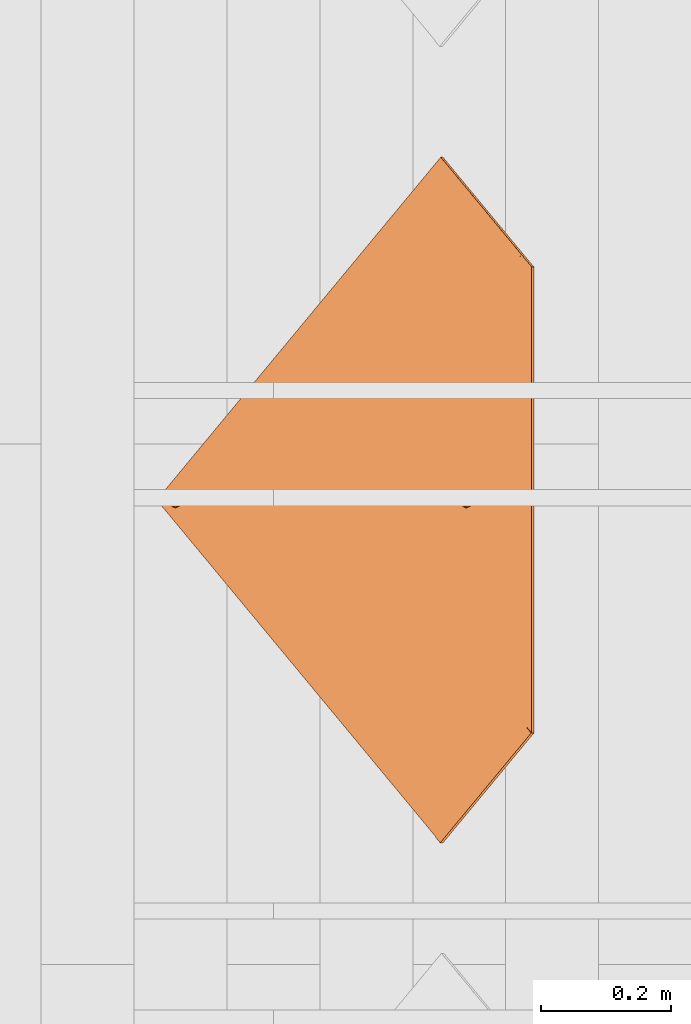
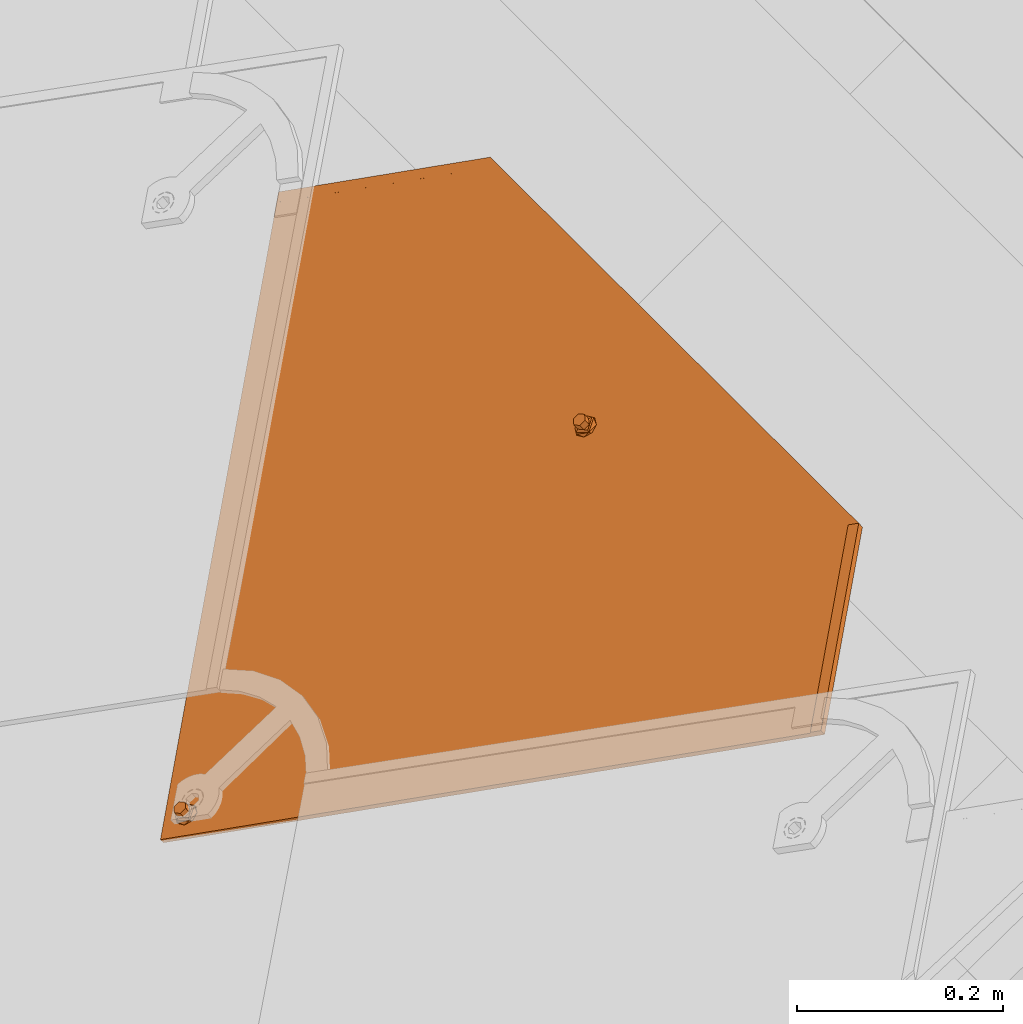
# One storey, part 58 of 151: 1 proxy.
"""IFC2X3 building model written with IfcOpenShell, lengths in millimetres."""

import ifcopenshell
import ifcopenshell.guid

model = None  # the IFC model being written
_history = None  # IfcOwnerHistory: only IFC2X3 demands one
_inside = {}  # id of a spatial element -> (the spatial element, [elements in it])
_under = {}  # id of a project, library or spatial element -> (it, [spatial elements below it])
_declared = {}  # id of a project -> (the project, [libraries it declares])
_typed = {}  # id of a type object -> (the type object, [elements of that type])
_made_of = {}  # id of a material, layer set ... -> (it, [elements and type objects made of it])


def new_model(schema):
    """Start an empty IFC model of exactly this schema.

    Asked for "IFC4X3", IfcOpenShell would pick the latest addendum, in which some entities
    have other attributes; the version numbers below select the first issue.
    IFC2X3 requires an IfcOwnerHistory on every rooted entity: one is made here for all.
    """
    global model, _history
    if schema == "IFC4X3":
        model = ifcopenshell.file(schema_version=(4, 3, 0, 0))
    else:
        model = ifcopenshell.file(schema=schema)
    _inside.clear()
    _under.clear()
    _declared.clear()
    _typed.clear()
    _made_of.clear()
    _history = None
    if model.schema == "IFC2X3":
        org = make("IfcOrganization", Name="unknown")
        user = make(
            "IfcPersonAndOrganization",
            ThePerson=make("IfcPerson", FamilyName="unknown"),
            TheOrganization=org,
        )
        app = make(
            "IfcApplication",
            ApplicationDeveloper=org,
            Version="unknown",
            ApplicationFullName="unknown",
            ApplicationIdentifier="unknown",
        )
        _history = make(
            "IfcOwnerHistory",
            OwningUser=user,
            OwningApplication=app,
            ChangeAction="ADDED",
            CreationDate=0,
        )
    return model


def make(cls, **values):
    """One entity of the class cls with the attributes given. An attribute that is None is left unset."""
    return model.create_entity(
        cls, **{name: value for name, value in values.items() if value is not None}
    )


def entity(cls, *values):
    """Any entity or typed value of the class cls, its attributes in the order of the schema. None: left unset."""
    e = model.create_entity(cls)
    for i, value in enumerate(values):
        if value is not None:
            e[i] = value
    return e


def rooted(cls, **values):
    """An entity with a GlobalId (a new one), such as an element, a storey or a relation."""
    return make(cls, GlobalId=ifcopenshell.guid.new(), OwnerHistory=_history, **values)


def si_unit(unit_type, name, prefix=None):
    """IfcSIUnit, for example si_unit("LENGTHUNIT", "METRE", prefix="MILLI")."""
    return make("IfcSIUnit", UnitType=unit_type, Prefix=prefix, Name=name)


def converted_unit(unit_type, name, factor, base, dimensions=None, offset=None):
    """IfcConversionBasedUnit, such as the inch: factor (a typed value) times the base unit."""
    return make(
        "IfcConversionBasedUnit"
        if offset is None
        else "IfcConversionBasedUnitWithOffset",
        ConversionOffset=offset,
        Dimensions=None
        if dimensions is None
        else entity("IfcDimensionalExponents", *dimensions),
        UnitType=unit_type,
        Name=name,
        ConversionFactor=make(
            "IfcMeasureWithUnit", ValueComponent=factor, UnitComponent=base
        ),
    )


def derived_unit(unit_type, elements):
    """IfcDerivedUnit: a product of units, each with its exponent."""
    return make(
        "IfcDerivedUnit",
        Elements=[
            make("IfcDerivedUnitElement", Unit=unit, Exponent=power)
            for unit, power in elements
        ],
        UnitType=unit_type,
    )


def assignment(units):
    """IfcUnitAssignment: the units of a project."""
    return None if units is None else make("IfcUnitAssignment", Units=units)


def point(xyz):
    """IfcCartesianPoint."""
    return None if xyz is None else make("IfcCartesianPoint", Coordinates=xyz)


def direction(xyz):
    """IfcDirection."""
    return None if xyz is None else make("IfcDirection", DirectionRatios=xyz)


def frame(location, z_axis=None, x_axis=None):
    """IfcAxis2Placement3D, a coordinate frame: its origin and axes. An axis left out is left unset."""
    return make(
        "IfcAxis2Placement3D",
        Location=point(location),
        Axis=direction(z_axis),
        RefDirection=direction(x_axis),
    )


def origin():
    """The frame at (0, 0, 0) with its axes left unset."""
    return frame((0.0, 0.0, 0.0))


def place(relative_to, where):
    """IfcLocalPlacement: puts the frame where relative to a parent placement (None: the world)."""
    return make(
        "IfcLocalPlacement", PlacementRelTo=relative_to, RelativePlacement=where
    )


def context(
    kind, dimensions, precision=None, world=None, true_north=None, identifier=None
):
    """IfcGeometricRepresentationContext, for example the 3D "Model" context."""
    return make(
        "IfcGeometricRepresentationContext",
        ContextIdentifier=identifier,
        ContextType=kind,
        CoordinateSpaceDimension=dimensions,
        Precision=precision,
        WorldCoordinateSystem=world,
        TrueNorth=true_north,
    )


def subcontext(parent, identifier, kind, view, scale=None):
    """IfcGeometricRepresentationSubContext, for example "Body" below "Model"."""
    return make(
        "IfcGeometricRepresentationSubContext",
        ContextIdentifier=identifier,
        ContextType=kind,
        ParentContext=parent,
        TargetScale=scale,
        TargetView=view,
    )


def project(units=None, contexts=None):
    """IfcProject with its units and contexts."""
    return rooted(
        "IfcProject",
        Name="project",
        RepresentationContexts=contexts,
        UnitsInContext=assignment(units),
    )


def spatial(cls, under=None, at=None, **own):
    """A site, building, storey or space (cls), placed at a placement, below another one or the project."""
    s = rooted(cls, ObjectPlacement=at, **own)
    if under is not None:
        _under.setdefault(under.id(), (under, []))[1].append(s)
    return s


def faces_of(points, faces, orient=None, outer=None):
    """IfcFace entities. A face is a list of loops; a loop is a list of indices into points, from 0.

    orient and outer hold one flag for each loop. By default every Orientation is true, the
    first loop of a face is its IfcFaceOuterBound and the others are IfcFaceBound.
    """
    made = []
    for i, loops in enumerate(faces):
        bounds = []
        for j, loop in enumerate(loops):
            is_outer = j == 0 if outer is None else outer[i][j]
            bounds.append(
                make(
                    "IfcFaceOuterBound" if is_outer else "IfcFaceBound",
                    Bound=make("IfcPolyLoop", Polygon=[points[k] for k in loop]),
                    Orientation=True if orient is None else orient[i][j],
                )
            )
        made.append(make("IfcFace", Bounds=bounds))
    return made


def faceted_brep(points, faces, orient=None, outer=None, voids=None):
    """IfcFacetedBrep: a solid bounded by flat faces; with voids (closed shells), ...WithVoids."""
    shared = [point(p) for p in points]
    hull = make("IfcClosedShell", CfsFaces=faces_of(shared, faces, orient, outer))
    if voids is None:
        return make("IfcFacetedBrep", Outer=hull)
    return make(
        "IfcFacetedBrepWithVoids",
        Outer=hull,
        Voids=[
            make(cls, CfsFaces=faces_of(shared, fs, o, b)) for cls, fs, o, b in voids
        ],
    )


def shape(context_of_items, identifier, shape_type, items):
    """IfcShapeRepresentation: the items that make up one representation, for example the "Body"."""
    return make(
        "IfcShapeRepresentation",
        ContextOfItems=context_of_items,
        RepresentationIdentifier=identifier,
        RepresentationType=shape_type,
        Items=items,
    )


def source(mapping_origin, context_of_items, identifier, shape_type, items):
    """IfcRepresentationMap: a shape defined once, which mapped items show again and again."""
    return make(
        "IfcRepresentationMap",
        MappingOrigin=mapping_origin,
        MappedRepresentation=shape(context_of_items, identifier, shape_type, items),
    )


def transform(
    local_origin,
    x_axis=None,
    y_axis=None,
    z_axis=None,
    scale=None,
    scale2=None,
    scale3=None,
    uniform=True,
):
    """IfcCartesianTransformationOperator3D, or its non-uniform kind. x_axis, y_axis, z_axis: its Axis1, 2, 3."""
    if uniform:
        return make(
            "IfcCartesianTransformationOperator3D",
            Axis1=direction(x_axis),
            Axis2=direction(y_axis),
            LocalOrigin=point(local_origin),
            Scale=scale,
            Axis3=direction(z_axis),
        )
    return make(
        "IfcCartesianTransformationOperator3DnonUniform",
        Axis1=direction(x_axis),
        Axis2=direction(y_axis),
        LocalOrigin=point(local_origin),
        Scale=scale,
        Axis3=direction(z_axis),
        Scale2=scale2,
        Scale3=scale3,
    )


def mapped(mapping_source, mapping_target):
    """IfcMappedItem: shows the shape of a source again, moved by a transform."""
    return make(
        "IfcMappedItem", MappingSource=mapping_source, MappingTarget=mapping_target
    )


def material(Name=None, Category=None):
    """IfcMaterial."""
    return make("IfcMaterial", Name=Name, Category=Category)


def material_list(materials):
    """IfcMaterialList."""
    return make("IfcMaterialList", Materials=materials)


def made_of(thing, what):
    """Note that an element or type object is made of a material, layer set ...; save() writes the relation."""
    if what is not None:
        _made_of.setdefault(what.id(), (what, []))[1].append(thing)
    return thing


def type_object(cls, material=None, **own):
    """A type object (cls), such as IfcWallType, which elements share."""
    return made_of(rooted(cls, **own), material)


def type_shapes(of_type, sources):
    """Give a type object the sources (RepresentationMaps) that its elements show as mapped items."""
    of_type.RepresentationMaps = sources


def element(
    cls,
    number,
    at=None,
    inside=None,
    cuts=None,
    type_object=None,
    material=None,
    context=None,
    identifier="Body",
    shape_type=None,
    held_by="IfcProductDefinitionShape",
    body=None,
    shapes=None,
    **own,
):
    """One element of the class cls, such as IfcWall. Its Tag is "e" and its number.

    at: its placement. inside: the storey or other place that contains it. cuts: it is an
    opening in that element (IfcRelVoidsElement). A single representation is given by context,
    identifier, shape_type and body (its items); several are given by shapes. held_by: the class
    of the entity that holds the representations. save() writes the other relations.
    """
    e = rooted(cls, Tag="e%d" % number, ObjectPlacement=at, **own)
    if body is not None:
        shapes = [shape(context, identifier, shape_type, body)]
    if shapes is not None:
        e.Representation = make(held_by, Representations=shapes)
    if inside is not None:
        _inside.setdefault(inside.id(), (inside, []))[1].append(e)
    if cuts is not None:
        rooted(
            "IfcRelVoidsElement", RelatingBuildingElement=cuts, RelatedOpeningElement=e
        )
    if type_object is not None:
        _typed.setdefault(type_object.id(), (type_object, []))[1].append(e)
    return made_of(e, material)


def aggregate(whole, parts):
    """IfcRelAggregates: a whole, such as a stair, and the parts it consists of."""
    return rooted("IfcRelAggregates", RelatingObject=whole, RelatedObjects=parts)


def save(model, path):
    """Write the relations noted so far, then the file.

    IfcRelAggregates (storeys below a building ...), IfcRelContainedInSpatialStructure (elements
    in a storey), IfcRelDefinesByType, IfcRelAssociatesMaterial and IfcRelDeclares: one each for
    every whole, place, type object, material and project.
    """
    for whole, parts in _under.values():
        aggregate(whole, parts)
    for where, things in _inside.values():
        rooted(
            "IfcRelContainedInSpatialStructure",
            RelatedElements=things,
            RelatingStructure=where,
        )
    for kind, things in _typed.values():
        rooted("IfcRelDefinesByType", RelatedObjects=things, RelatingType=kind)
    for what, things in _made_of.values():
        rooted("IfcRelAssociatesMaterial", RelatedObjects=things, RelatingMaterial=what)
    for by, libraries in _declared.values():
        rooted("IfcRelDeclares", RelatingContext=by, RelatedDefinitions=libraries)
    model.write(path)


model = new_model("IFC2X3")

# Units and contexts
model_context = context("Model", 3, precision=0.01, world=origin(), true_north=direction((6.12303176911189e-17, 1.0)))
body_context = subcontext(model_context, "Body", "Model", "MODEL_VIEW")
ifc_project = project(units=[si_unit("LENGTHUNIT", "METRE", prefix="MILLI"), si_unit("AREAUNIT", "SQUARE_METRE"), si_unit("VOLUMEUNIT", "CUBIC_METRE"), converted_unit("PLANEANGLEUNIT", "DEGREE", entity("IfcRatioMeasure", 0.0174532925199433), si_unit("PLANEANGLEUNIT", "RADIAN"), dimensions=[0, 0, 0, 0, 0, 0, 0]), si_unit("MASSUNIT", "GRAM", prefix="KILO"), derived_unit("MASSDENSITYUNIT", [(si_unit("MASSUNIT", "GRAM", prefix="KILO"), 1), (si_unit("LENGTHUNIT", "METRE"), -3)]), si_unit("TIMEUNIT", "SECOND"), si_unit("FREQUENCYUNIT", "HERTZ"), si_unit("THERMODYNAMICTEMPERATUREUNIT", "DEGREE_CELSIUS"), derived_unit("THERMALTRANSMITTANCEUNIT", [(si_unit("MASSUNIT", "GRAM", prefix="KILO"), 1), (si_unit("THERMODYNAMICTEMPERATUREUNIT", "KELVIN"), -1), (si_unit("TIMEUNIT", "SECOND"), -3)]), derived_unit("VOLUMETRICFLOWRATEUNIT", [(si_unit("LENGTHUNIT", "METRE"), 3), (si_unit("TIMEUNIT", "SECOND"), -1)]), si_unit("ELECTRICCURRENTUNIT", "AMPERE"), si_unit("ELECTRICVOLTAGEUNIT", "VOLT"), si_unit("POWERUNIT", "WATT"), si_unit("FORCEUNIT", "NEWTON", prefix="KILO"), si_unit("ILLUMINANCEUNIT", "LUX"), si_unit("LUMINOUSFLUXUNIT", "LUMEN"), si_unit("LUMINOUSINTENSITYUNIT", "CANDELA"), derived_unit("USERDEFINED", [(si_unit("MASSUNIT", "GRAM", prefix="KILO"), -1), (si_unit("LENGTHUNIT", "METRE"), -2), (si_unit("TIMEUNIT", "SECOND"), 3), (si_unit("LUMINOUSFLUXUNIT", "LUMEN"), 1)]), derived_unit("LINEARVELOCITYUNIT", [(si_unit("LENGTHUNIT", "METRE"), 1), (si_unit("TIMEUNIT", "SECOND"), -1)]), si_unit("PRESSUREUNIT", "PASCAL"), derived_unit("USERDEFINED", [(si_unit("LENGTHUNIT", "METRE"), -2), (si_unit("MASSUNIT", "GRAM", prefix="KILO"), 1), (si_unit("TIMEUNIT", "SECOND"), -2)])], contexts=[model_context])

# Site, building, storey
site_placement = place(None, origin())
site = spatial("IfcSite", under=ifc_project, at=site_placement, Name="Default", CompositionType="ELEMENT")
building_placement = place(site_placement, origin())
building = spatial("IfcBuilding", under=site, at=building_placement, CompositionType="ELEMENT")
storey_placement = place(building_placement, origin())
storey = spatial("IfcBuildingStorey", under=building, at=storey_placement, Name="Level 1", CompositionType="ELEMENT", Elevation=0.0)

# Proxy
ifc_material_1 = material(Name="Rubber - Sunstyle - Black")
ifc_material_2 = material(Name="Glass - Sunstyle - Tainted Black")
ifc_material_list_1 = material_list([ifc_material_1, ifc_material_2])
ifc_material_list_2 = material_list([ifc_material_1, ifc_material_2])
building_element_proxy_type = type_object("IfcBuildingElementProxyType", Name="Shingle Top - Black", PredefinedType="NOTDEFINED", material=ifc_material_list_2)
shared_shape = source(origin(), body_context, "Body", "Brep", [
    faceted_brep([(-518.396436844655, -96.9865733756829, 16.4476231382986), (-518.396436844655, -96.9614556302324, 17.9474128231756), (-526.881123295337, -88.4767691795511, 17.8053154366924), (-526.881123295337, -88.5018869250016, 16.3055257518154), (-376.996804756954, 61.3404039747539, 13.7960402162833), (-368.512118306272, 52.8557175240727, 13.9381376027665), (-376.996804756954, 61.3655217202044, 15.2958299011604), (-368.512118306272, 52.8808352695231, 15.4379272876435)], [[[0, 1, 2, 3]], [[0, 3, 4, 5]], [[3, 2, 6, 4]], [[2, 1, 7, 6]], [[1, 0, 5, 7]], [[5, 4, 6, 7]]]),
    faceted_brep([(0.166366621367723, -33.6374645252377, -4.47296585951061), (-5.6078362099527, -36.9707346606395, -4.4171418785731), (-5.60783620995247, -36.6024255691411, 17.5747274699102), (0.166366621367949, -33.2691554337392, 17.5189034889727), (-5.60783620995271, -43.6372749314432, -4.30549391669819), (-5.60783620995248, -43.2689658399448, 17.6863754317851), (0.166366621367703, -46.9705450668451, -4.24966993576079), (0.166366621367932, -46.6022359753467, 17.7421994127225), (5.94056945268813, -43.6372749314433, -4.30549391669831), (5.94056945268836, -43.2689658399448, 17.686375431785), (5.94056945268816, -36.9707346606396, -4.41714187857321), (5.94056945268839, -36.6024255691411, 17.5747274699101), (-8.43733754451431, -48.5381935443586, 17.774621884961), (0.16636662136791, -52.1014648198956, 17.8342978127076), (-12.0011084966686, -39.9356957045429, 17.6305514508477), (-8.43733754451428, -31.3331978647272, 17.4864810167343), (0.166366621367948, -27.7699265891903, 17.4268050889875), (8.77007078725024, -31.3331978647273, 17.4864810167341), (12.3338417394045, -39.935695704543, 17.6305514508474), (8.77007078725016, -48.5381935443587, 17.7746218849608), (-11.1578780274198, -37.6406185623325, 19.9433933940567), (-9.59010793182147, -39.8646808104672, 21.8708760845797), (0.166366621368, -32.5516055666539, 22.5035764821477), (0.166366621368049, -31.3111079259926, 21.9232298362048), (0.166366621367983, -29.1535570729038, 20.9138547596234), (0.166366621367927, -51.5454208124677, 19.1093557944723), (0.166366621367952, -50.6018442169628, 21.273060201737), (0.166366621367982, -47.1524685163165, 22.7481046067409), (0.166366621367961, -28.2829626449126, 18.7197675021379), (-6.15687907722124, -43.5022527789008, 22.6869725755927), (-6.15687907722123, -36.2018213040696, 22.5647085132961), (11.4906112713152, -42.1520387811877, 20.0189484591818), (10.0152467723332, -40.9390872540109, 21.7920079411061), (6.48961231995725, -36.2018213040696, 22.564708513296), (6.48961231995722, -43.5022527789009, 22.6869725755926), (-6.15687907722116, -43.3682243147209, 30.68986075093), (0.166366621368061, -47.0184400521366, 30.7509927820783), (0.166366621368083, -39.7180085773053, 30.6287287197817), (-6.15687907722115, -36.0677928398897, 30.5675966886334), (6.48961231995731, -43.368224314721, 30.6898607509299), (6.48961231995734, -36.0677928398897, 30.5675966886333), (0.166366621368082, -32.417577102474, 30.5064646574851), (0.166366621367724, -40.3040047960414, -4.36131789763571)], [[[0, 1, 2, 3]], [[1, 4, 5, 2]], [[4, 6, 7, 5]], [[6, 8, 9, 7]], [[8, 10, 11, 9]], [[10, 0, 3, 11]], [[12, 7, 13]], [[7, 12, 5]], [[14, 5, 12]], [[5, 14, 2]], [[15, 2, 14]], [[3, 2, 15]], [[15, 16, 3]], [[16, 17, 3]], [[11, 3, 17]], [[11, 17, 18]], [[9, 11, 18]], [[18, 19, 9]], [[7, 9, 19]], [[19, 13, 7]], [[20, 14, 12]], [[21, 22, 23, 24]], [[24, 20, 21]], [[25, 20, 12]], [[26, 27, 21]], [[15, 14, 20]], [[12, 13, 25]], [[20, 28, 15]], [[28, 20, 24]], [[21, 27, 29]], [[21, 29, 30]], [[26, 21, 20]], [[20, 25, 26]], [[15, 28, 16]], [[21, 30, 22]], [[31, 18, 17]], [[28, 31, 17]], [[32, 27, 26]], [[26, 31, 32]], [[26, 25, 31]], [[25, 19, 31]], [[17, 16, 28]], [[31, 19, 18]], [[24, 31, 28]], [[33, 34, 32]], [[23, 22, 33]], [[24, 32, 31]], [[27, 32, 34]], [[32, 23, 33]], [[19, 25, 13]], [[32, 24, 23]], [[35, 36, 37]], [[37, 38, 35]], [[36, 39, 37]], [[40, 37, 39]], [[37, 40, 41]], [[37, 41, 38]], [[42, 6, 4]], [[4, 1, 42]], [[1, 0, 42]], [[42, 8, 6]], [[0, 10, 42]], [[8, 42, 10]], [[22, 30, 38, 41]], [[30, 29, 35, 38]], [[29, 27, 36, 35]], [[27, 34, 39, 36]], [[34, 33, 40, 39]], [[33, 22, 41, 40]]]),
    faceted_brep([(0.0, -573.927138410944, 4.00636906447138), (-5.77420283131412, -577.260408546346, 4.0621930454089), (-5.77420283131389, -576.892099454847, 26.0540623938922), (0.0, -573.558829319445, 25.9982384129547), (-5.77420283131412, -583.926948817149, 4.1738410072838), (-5.7742028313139, -583.558639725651, 26.1657103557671), (0.0, -587.260218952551, 4.2296649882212), (0.0, -586.891909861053, 26.2215343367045), (5.77420283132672, -583.926948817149, 4.17384100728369), (5.77420283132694, -583.558639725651, 26.165710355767), (5.77420283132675, -577.260408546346, 4.06219304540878), (5.77420283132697, -576.892099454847, 26.0540623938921), (-8.60370416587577, -588.827867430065, 26.253956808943), (0.0, -592.391138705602, 26.3136327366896), (-12.1674751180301, -580.225369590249, 26.1098863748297), (-8.60370416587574, -571.622871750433, 25.9658159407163), (0.0, -568.059600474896, 25.9061400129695), (8.60370416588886, -571.622871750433, 25.9658159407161), (12.1674751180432, -580.225369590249, 26.1098863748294), (8.60370416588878, -588.827867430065, 26.2539568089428), (-11.3242446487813, -577.930292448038, 28.4227283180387), (-9.75647455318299, -580.154354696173, 30.3502110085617), (0.0, -572.84127945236, 30.9829114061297), (0.0, -571.600781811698, 30.4025647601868), (0.0, -569.44323095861, 29.3931896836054), (0.0, -591.835094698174, 27.5886907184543), (0.0, -590.891518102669, 29.752395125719), (0.0, -587.442142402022, 31.227439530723), (0.0, -568.572636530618, 27.1991024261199), (-6.32324569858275, -583.791926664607, 31.1663074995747), (-6.32324569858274, -576.491495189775, 31.0440434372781), (11.3242446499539, -582.441712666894, 28.4982833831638), (9.84888015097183, -581.228761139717, 30.2713428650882), (6.32324569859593, -576.491495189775, 31.044043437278), (6.32324569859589, -583.791926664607, 31.1663074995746), (-6.32324569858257, -583.657898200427, 39.169195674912), (0.0, -587.308113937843, 39.2303277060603), (0.0, -580.007682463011, 39.1080636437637), (-6.32324569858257, -576.357466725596, 39.0469316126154), (6.32324569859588, -583.657898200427, 39.1691956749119), (6.32324569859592, -576.357466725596, 39.0469316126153), (0.0, -572.70725098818, 38.9857995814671), (0.0, -580.593678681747, 4.11801702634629)], [[[0, 1, 2, 3]], [[1, 4, 5, 2]], [[4, 6, 7, 5]], [[6, 8, 9, 7]], [[8, 10, 11, 9]], [[10, 0, 3, 11]], [[12, 7, 13]], [[7, 12, 5]], [[14, 5, 12]], [[5, 14, 2]], [[15, 2, 14]], [[3, 2, 15]], [[15, 16, 3]], [[16, 17, 3]], [[11, 3, 17]], [[11, 17, 18]], [[9, 11, 18]], [[18, 19, 9]], [[7, 9, 19]], [[19, 13, 7]], [[20, 14, 12]], [[21, 22, 23, 24]], [[24, 20, 21]], [[25, 20, 12]], [[26, 27, 21]], [[15, 14, 20]], [[12, 13, 25]], [[20, 28, 15]], [[28, 20, 24]], [[21, 27, 29]], [[21, 29, 30]], [[26, 21, 20]], [[20, 25, 26]], [[15, 28, 16]], [[21, 30, 22]], [[31, 18, 17]], [[28, 31, 17]], [[32, 27, 26]], [[26, 31, 32]], [[26, 25, 31]], [[25, 19, 31]], [[17, 16, 28]], [[31, 19, 18]], [[24, 31, 28]], [[33, 34, 32]], [[23, 22, 33]], [[24, 32, 31]], [[27, 32, 34]], [[32, 23, 33]], [[19, 25, 13]], [[32, 24, 23]], [[35, 36, 37]], [[37, 38, 35]], [[36, 39, 37]], [[40, 37, 39]], [[37, 40, 41]], [[37, 41, 38]], [[42, 6, 4]], [[4, 1, 42]], [[1, 0, 42]], [[42, 8, 6]], [[0, 10, 42]], [[8, 42, 10]], [[22, 30, 38, 41]], [[30, 29, 35, 38]], [[29, 27, 36, 35]], [[27, 34, 39, 36]], [[34, 33, 40, 39]], [[33, 22, 41, 40]]]),
    faceted_brep([(518.482751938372, -96.8754983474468, 17.9260478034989), (526.967438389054, -88.3908118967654, 17.7839504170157), (526.967438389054, -88.3656941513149, 19.2837401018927), (518.482751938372, -96.8503806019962, 19.4258374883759), (349.749400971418, 71.8105397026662, 15.1009763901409), (358.234087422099, 80.2952261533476, 14.9588790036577), (358.234087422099, 80.3203438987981, 16.4586686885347), (349.749400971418, 71.8356574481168, 16.6007660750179)], [[[0, 1, 2, 3]], [[1, 0, 4, 5]], [[2, 1, 5, 6]], [[3, 2, 6, 7]], [[0, 3, 7, 4]], [[4, 7, 6, 5]]]),
    faceted_brep([(358.234087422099, 80.2952261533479, 14.9588790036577), (6.94661128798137, -35.8890860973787, 16.9046771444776), (7.74581466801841, -37.8182632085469, 16.9369860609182), (5.67526230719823, -34.2324641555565, 16.8769328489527), (8.01840805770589, -39.8885252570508, 16.9716577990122), (7.74581466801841, -41.9587873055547, 17.0063295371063), (6.94661128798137, -43.8879644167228, 17.0386384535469), (526.967438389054, -88.3908118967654, 17.7839504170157), (4.01840805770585, -32.9612934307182, 16.855643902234), (2.08896041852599, -32.1622021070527, 16.8422611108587), (0.0184080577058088, -31.8896469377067, 16.8376964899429), (-358.233442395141, 80.2952261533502, 14.9588790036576), (-2.05214430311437, -32.1622021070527, 16.8422611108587), (-3.98159194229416, -32.9612934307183, 16.855643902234), (-5.63844619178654, -34.2324641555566, 16.8769328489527), (-6.90979517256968, -35.8890860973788, 16.9046771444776), (-7.70899855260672, -37.8182632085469, 16.9369860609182), (-7.98159194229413, -39.8885252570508, 16.9716577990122), (-7.70899855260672, -41.9587873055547, 17.0063295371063), (-6.90979517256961, -43.8879644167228, 17.0386384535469), (-526.966793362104, -88.390811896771, 17.7839504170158), (-5.63844619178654, -45.544586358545, 17.0663827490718), (-5.6568542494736, -574.226981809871, 25.9204974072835), (-6.92820323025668, -575.883603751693, 25.9482417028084), (-7.72740661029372, -577.812780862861, 25.980550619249), (-8.0, -579.883042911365, 26.015222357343), (-7.72740661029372, -581.953304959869, 26.049894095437), (0.000322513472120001, -615.210165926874, 26.6068637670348), (7.72740661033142, -581.953304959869, 26.049894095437), (6.92820323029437, -583.882482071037, 26.0822030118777), (5.65685424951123, -585.53910401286, 26.1099473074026), (4.0, -586.810274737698, 26.1312362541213), (2.070552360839, -587.609366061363, 26.1446190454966), (0.0, -587.881921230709, 26.1491836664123), (-2.0705523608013, -587.609366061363, 26.1446190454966), (-4.0, -586.810274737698, 26.1312362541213), (-5.65685424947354, -585.53910401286, 26.1099473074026), (-6.92820323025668, -583.882482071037, 26.0822030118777), (-4.0, -572.955811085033, 25.8992084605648), (-3.98159194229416, -46.8157570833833, 17.0876716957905), (-2.07055236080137, -572.156719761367, 25.8858256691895), (-2.05214430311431, -47.614848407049, 17.1010544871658), (0.0, -571.884164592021, 25.8812610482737), (0.0184080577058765, -47.8874035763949, 17.1056191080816), (2.07055236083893, -572.156719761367, 25.8858256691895), (2.08896041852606, -47.6148484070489, 17.1010544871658), (4.0, -572.955811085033, 25.8992084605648), (4.01840805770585, -46.8157570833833, 17.0876716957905), (5.65685424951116, -574.226981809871, 25.9204974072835), (5.67526230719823, -45.544586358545, 17.0663827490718), (6.92820323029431, -575.883603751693, 25.9482417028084), (7.72740661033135, -577.812780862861, 25.980550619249), (8.0, -579.883042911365, 26.015222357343), (-358.233442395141, 80.1947551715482, 8.9597202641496), (-6.90979517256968, -35.9895570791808, 10.9055184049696), (-7.70899855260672, -37.9187341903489, 10.9378273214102), (-5.63844619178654, -34.3329351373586, 10.8777741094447), (-7.98159194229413, -39.9889962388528, 10.9724990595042), (-7.70899855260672, -42.0592582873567, 11.0071707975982), (-6.90979517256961, -43.9884353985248, 11.0394797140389), (-526.966793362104, -88.4912828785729, 11.7847916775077), (-3.98159194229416, -33.0617644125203, 10.856485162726), (-2.05214430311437, -32.2626730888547, 10.8431023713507), (0.0184080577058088, -31.9901179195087, 10.8385377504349), (358.234087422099, 80.1947551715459, 8.95972026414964), (2.08896041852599, -32.2626730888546, 10.8431023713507), (4.01840805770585, -33.0617644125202, 10.856485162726), (5.67526230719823, -34.3329351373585, 10.8777741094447), (6.94661128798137, -35.9895570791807, 10.9055184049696), (7.74581466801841, -37.9187341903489, 10.9378273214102), (8.01840805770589, -39.9889962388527, 10.9724990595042), (7.74581466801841, -42.0592582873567, 11.0071707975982), (6.94661128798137, -43.9884353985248, 11.0394797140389), (526.967438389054, -88.4912828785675, 11.7847916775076), (5.67526230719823, -45.645057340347, 11.0672240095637), (5.65685424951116, -574.327452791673, 19.9213386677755), (6.92820323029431, -575.984074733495, 19.9490829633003), (7.72740661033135, -577.913251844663, 19.981391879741), (8.0, -579.983513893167, 20.016063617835), (7.72740661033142, -582.053775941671, 20.050735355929), (0.000322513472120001, -615.310636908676, 20.6077050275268), (-7.72740661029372, -582.053775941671, 20.050735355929), (-6.92820323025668, -583.982953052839, 20.0830442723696), (-5.65685424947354, -585.639574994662, 20.1107885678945), (-4.0, -586.9107457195, 20.1320775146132), (-2.0705523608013, -587.709837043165, 20.1454603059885), (0.0, -587.982392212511, 20.1500249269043), (2.070552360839, -587.709837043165, 20.1454603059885), (4.0, -586.9107457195, 20.1320775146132), (5.65685424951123, -585.639574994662, 20.1107885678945), (6.92820323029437, -583.982953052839, 20.0830442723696), (4.01840805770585, -46.9162280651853, 11.0885129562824), (4.0, -573.056282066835, 19.9000497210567), (2.08896041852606, -47.7153193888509, 11.1018957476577), (2.07055236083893, -572.257190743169, 19.8866669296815), (0.0184080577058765, -47.9878745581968, 11.1064603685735), (0.0, -571.984635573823, 19.8821023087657), (-2.05214430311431, -47.7153193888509, 11.1018957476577), (-2.07055236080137, -572.257190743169, 19.8866669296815), (-3.98159194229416, -46.9162280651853, 11.0885129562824), (-4.0, -573.056282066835, 19.9000497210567), (-5.63844619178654, -45.645057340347, 11.0672240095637), (-5.6568542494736, -574.327452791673, 19.9213386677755), (-6.92820323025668, -575.984074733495, 19.9490829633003), (-7.72740661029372, -577.913251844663, 19.981391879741), (-8.0, -579.983513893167, 20.016063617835)], [[[0, 1, 2]], [[1, 0, 3]], [[0, 2, 4]], [[4, 5, 0]], [[5, 6, 0]], [[7, 0, 6]], [[8, 3, 0]], [[9, 8, 0]], [[10, 9, 0]], [[0, 11, 10]], [[12, 10, 11]], [[13, 12, 11]], [[14, 13, 11]], [[11, 15, 14]], [[15, 11, 16]], [[16, 11, 17]], [[11, 18, 17]], [[18, 11, 19]], [[11, 20, 19]], [[19, 20, 21]], [[20, 22, 21]], [[23, 22, 20]], [[24, 23, 20]], [[24, 20, 25]], [[26, 25, 20]], [[27, 26, 20]], [[7, 28, 27]], [[29, 27, 28]], [[27, 29, 30]], [[30, 31, 27]], [[31, 32, 27]], [[27, 32, 33]], [[27, 33, 34]], [[34, 35, 27]], [[27, 35, 36]], [[36, 37, 27]], [[37, 26, 27]], [[38, 21, 22]], [[38, 39, 21]], [[38, 40, 39]], [[40, 41, 39]], [[40, 42, 41]], [[41, 42, 43]], [[44, 43, 42]], [[44, 45, 43]], [[45, 44, 46]], [[46, 47, 45]], [[46, 48, 47]], [[48, 49, 47]], [[50, 7, 48]], [[48, 7, 49]], [[7, 50, 51]], [[7, 51, 52]], [[52, 28, 7]], [[7, 6, 49]], [[53, 54, 55]], [[54, 53, 56]], [[53, 55, 57]], [[58, 53, 57]], [[59, 53, 58]], [[60, 53, 59]], [[61, 56, 53]], [[62, 61, 53]], [[53, 63, 62]], [[63, 53, 64]], [[65, 63, 64]], [[66, 65, 64]], [[64, 67, 66]], [[67, 64, 68]], [[68, 64, 69]], [[70, 69, 64]], [[71, 70, 64]], [[72, 71, 64]], [[72, 64, 73]], [[72, 73, 74]], [[74, 73, 75]], [[73, 76, 75]], [[76, 73, 77]], [[77, 73, 78]], [[79, 78, 73]], [[79, 73, 80]], [[60, 81, 80]], [[80, 81, 82]], [[80, 82, 83]], [[83, 84, 80]], [[84, 85, 80]], [[85, 86, 80]], [[80, 86, 87]], [[80, 87, 88]], [[80, 88, 89]], [[79, 80, 90]], [[80, 89, 90]], [[75, 91, 74]], [[75, 92, 91]], [[92, 93, 91]], [[93, 92, 94]], [[93, 94, 95]], [[96, 95, 94]], [[97, 95, 96]], [[96, 98, 97]], [[98, 99, 97]], [[98, 100, 99]], [[100, 101, 99]], [[100, 102, 101]], [[60, 101, 102]], [[103, 60, 102]], [[103, 104, 60]], [[104, 105, 60]], [[105, 81, 60]], [[59, 101, 60]], [[27, 20, 60, 80]], [[7, 27, 80, 73]], [[0, 7, 73, 64]], [[25, 105, 104, 24]], [[24, 104, 103, 23]], [[38, 22, 102, 100]], [[102, 22, 23, 103]], [[40, 38, 100, 98]], [[40, 98, 96, 42]], [[42, 96, 94, 44]], [[44, 94, 92, 46]], [[50, 48, 75, 76]], [[75, 48, 46, 92]], [[51, 50, 76, 77]], [[51, 77, 78, 52]], [[52, 78, 79, 28]], [[28, 79, 90, 29]], [[31, 30, 89, 88]], [[29, 90, 89, 30]], [[87, 32, 31, 88]], [[32, 87, 86, 33]], [[34, 33, 86, 85]], [[34, 85, 84, 35]], [[37, 36, 83, 82]], [[35, 84, 83, 36]], [[37, 82, 81, 26]], [[26, 81, 105, 25]], [[17, 57, 55, 16]], [[16, 55, 54, 15]], [[13, 14, 56, 61]], [[56, 14, 15, 54]], [[12, 13, 61, 62]], [[12, 62, 63, 10]], [[10, 63, 65, 9]], [[9, 65, 66, 8]], [[1, 3, 67, 68]], [[67, 3, 8, 66]], [[2, 1, 68, 69]], [[2, 69, 70, 4]], [[4, 70, 71, 5]], [[5, 71, 72, 6]], [[47, 49, 74, 91]], [[74, 49, 6, 72]], [[45, 47, 91, 93]], [[45, 93, 95, 43]], [[43, 95, 97, 41]], [[41, 97, 99, 39]], [[19, 21, 101, 59]], [[101, 21, 39, 99]], [[18, 19, 59, 58]], [[18, 58, 57, 17]], [[11, 0, 64, 53]], [[20, 11, 53, 60]]]),
])
type_shapes(building_element_proxy_type, [shared_shape])
proxy_placement = place(storey_placement, frame((804.269428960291, -1030.33894757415, 2508.42575310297), z_axis=(-0.57357643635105, 0.0, 0.819152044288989), x_axis=(0.0, -1.0, 0.0)))
element("IfcBuildingElementProxy", 1, at=proxy_placement, inside=storey, type_object=building_element_proxy_type, material=ifc_material_list_1, Name="Roofing_Panels_SunStyle_Tile_Shingle-Top:Shingle Top - Black", ObjectType="Roofing_Panels_SunStyle_Tile_Shingle-Top:Shingle Top - Black", context=body_context, shape_type="MappedRepresentation", body=[
    mapped(shared_shape, transform((0.0, 0.0, 0.0), scale=1.0)),
])

save(model, "model.ifc")
